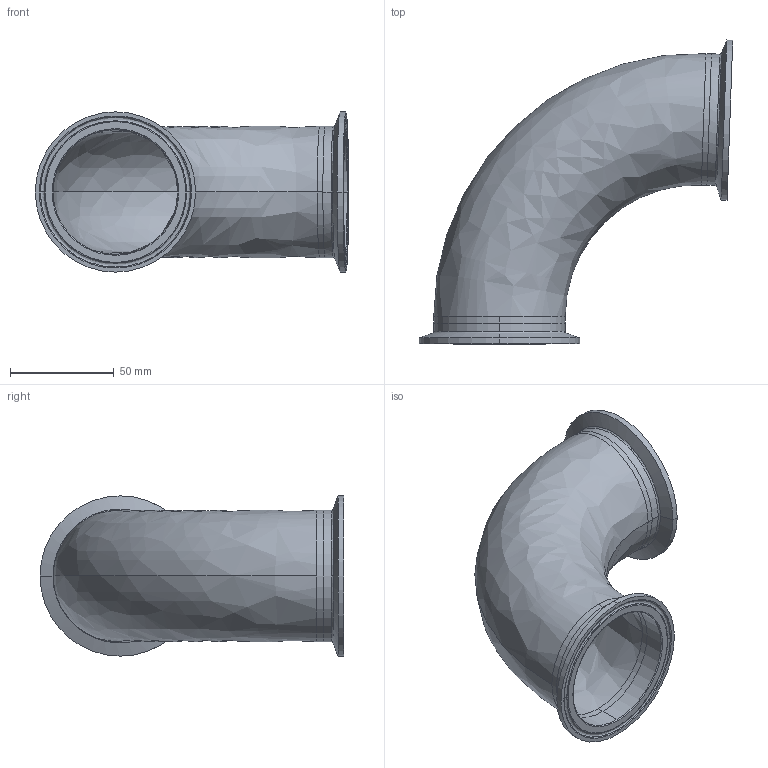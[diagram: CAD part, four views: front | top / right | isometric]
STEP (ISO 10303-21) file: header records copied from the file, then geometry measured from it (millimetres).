
FILE_DESCRIPTION (( 'STEP AP214' ), '1' );
FILE_NAME ('TEG2C926L2.5-...STEP', '2016-05-22T11:37:22', ( 'eran' ), ( '' ), 'SwSTEP 2.0', 'SolidWorks 2016', '' );
FILE_SCHEMA (( 'AUTOMOTIVE_DESIGN' ));
Length unit declared in the file: millimetre
Products named in the file (1): TEG2C926L2.5-..
Bounding box: 151.3 x 146.72 x 77.39 mm (x, y, z)
Volume: 69280.9 mm3; surface area: 77121.4 mm2
Topology: 3 solids, 3 shells, 64 faces, 160 edges, 104 vertices
Faces by surface type: bspline 24, cylinder 20, cone 12, plane 8
Entity records: 3303 total; most frequent: CARTESIAN_POINT 1715, DIRECTION 346, ORIENTED_EDGE 320, EDGE_CURVE 160, AXIS2_PLACEMENT_3D 157, CIRCLE 116, VERTEX_POINT 104, EDGE_LOOP 72
